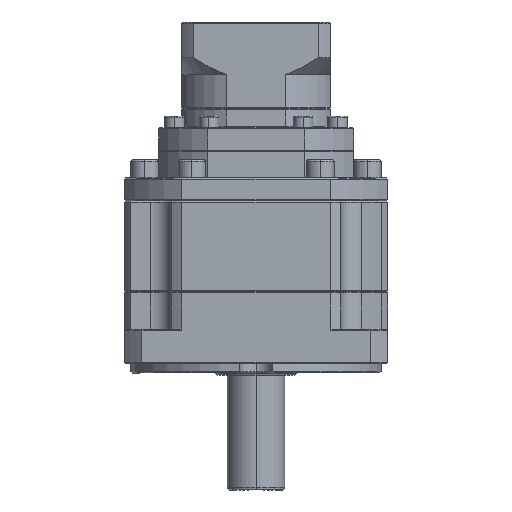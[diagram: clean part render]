
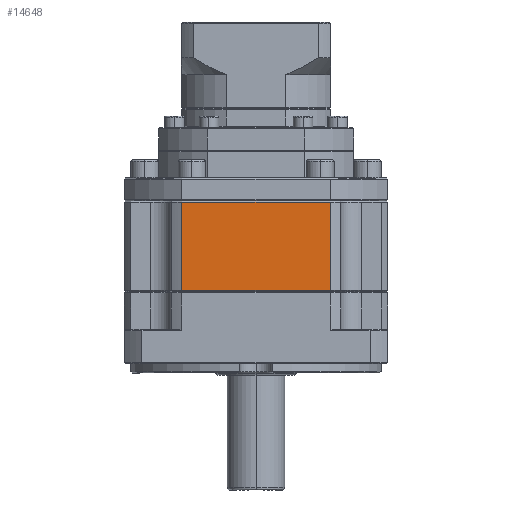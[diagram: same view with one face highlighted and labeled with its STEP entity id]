
A CAD part, front view. The second image highlights one B-rep face of the part: STEP entity #14648.
In plain terms, the highlighted planar face has unit normal (0, -1, 0).
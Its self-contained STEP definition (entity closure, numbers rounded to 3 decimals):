
#793 = VECTOR ( 'NONE', #105209, 1000. ) ;
#3586 = DIRECTION ( 'NONE',  ( 0., 1., 0. ) ) ;
#6575 = CARTESIAN_POINT ( 'NONE',  ( 104.274, -84.591, -49.829 ) ) ;
#9100 = VERTEX_POINT ( 'NONE', #100306 ) ;
#14648 = ADVANCED_FACE ( 'NONE', ( #37205 ), #22424, .F. ) ;
#19111 = CARTESIAN_POINT ( 'NONE',  ( 129.374, -84.591, -88.329 ) ) ;
#21428 = EDGE_CURVE ( 'NONE', #96960, #9100, #94618, .T. ) ;
#22424 = PLANE ( 'NONE',  #117729 ) ;
#22693 = CARTESIAN_POINT ( 'NONE',  ( 104.274, -84.591, -283.654 ) ) ;
#25216 = CARTESIAN_POINT ( 'NONE',  ( 39.474, -84.591, -49.329 ) ) ;
#30550 = ORIENTED_EDGE ( 'NONE', *, *, #116445, .F. ) ;
#37205 = FACE_OUTER_BOUND ( 'NONE', #65712, .T. ) ;
#38110 = DIRECTION ( 'NONE',  ( 1., 0., 0. ) ) ;
#41854 = DIRECTION ( 'NONE',  ( 0., 0., -1. ) ) ;
#43719 = VECTOR ( 'NONE', #103006, 1000. ) ;
#45732 = ORIENTED_EDGE ( 'NONE', *, *, #49524, .F. ) ;
#49524 = EDGE_CURVE ( 'NONE', #98106, #122891, #115839, .T. ) ;
#50221 = CARTESIAN_POINT ( 'NONE',  ( 104.274, -84.591, -88.329 ) ) ;
#51085 = ORIENTED_EDGE ( 'NONE', *, *, #55750, .F. ) ;
#55750 = EDGE_CURVE ( 'NONE', #122891, #96960, #77041, .T. ) ;
#60510 = LINE ( 'NONE', #86198, #111483 ) ;
#60795 = CARTESIAN_POINT ( 'NONE',  ( 129.374, -84.591, -49.329 ) ) ;
#65712 = EDGE_LOOP ( 'NONE', ( #51085, #45732, #30550, #86822 ) ) ;
#70480 = DIRECTION ( 'NONE',  ( -1., 0., 0. ) ) ;
#77041 = LINE ( 'NONE', #19111, #793 ) ;
#86198 = CARTESIAN_POINT ( 'NONE',  ( 71.874, -84.591, -49.829 ) ) ;
#86822 = ORIENTED_EDGE ( 'NONE', *, *, #21428, .F. ) ;
#87321 = VECTOR ( 'NONE', #41854, 1000. ) ;
#94618 = LINE ( 'NONE', #25216, #43719 ) ;
#96960 = VERTEX_POINT ( 'NONE', #97929 ) ;
#97929 = CARTESIAN_POINT ( 'NONE',  ( 39.474, -84.591, -88.329 ) ) ;
#98106 = VERTEX_POINT ( 'NONE', #6575 ) ;
#100306 = CARTESIAN_POINT ( 'NONE',  ( 39.474, -84.591, -49.829 ) ) ;
#103006 = DIRECTION ( 'NONE',  ( 0., 0., 1. ) ) ;
#105209 = DIRECTION ( 'NONE',  ( -1., 0., 0. ) ) ;
#111483 = VECTOR ( 'NONE', #38110, 1000. ) ;
#115839 = LINE ( 'NONE', #22693, #87321 ) ;
#116445 = EDGE_CURVE ( 'NONE', #9100, #98106, #60510, .T. ) ;
#117729 = AXIS2_PLACEMENT_3D ( 'NONE', #60795, #3586, #70480 ) ;
#122891 = VERTEX_POINT ( 'NONE', #50221 ) ;
